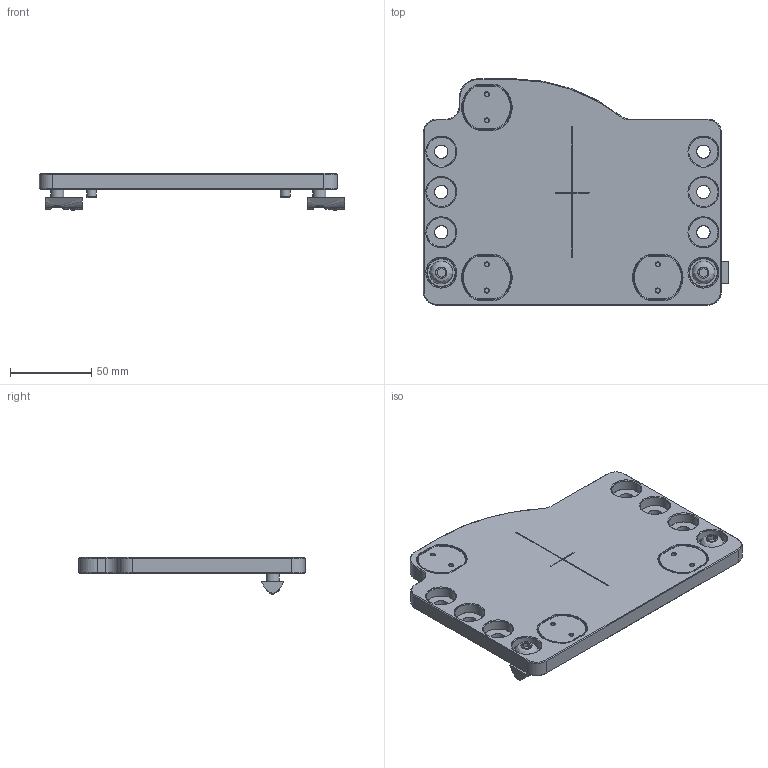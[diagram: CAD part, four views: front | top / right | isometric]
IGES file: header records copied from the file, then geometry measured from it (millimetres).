
Global section: file name: Y:\_LCPD Drawings\13.1 Lightweight Models\9936\LA-9936-0631 LAUNCH EXTRUSION MOUNT\LA-9936-0631 LAUNCH EXTRUSION MOUNT.igs; native system: NX V1926; preprocessor: SIEMENS PLM Software NX 1942; date: 20210318.153425; units: millimetre
Bounding box: 187.5 x 139 x 22.83 mm (x, y, z)
Surface area: 65033.8 mm2 (no closed solid volume)
Topology: 0 solids, 0 shells, 645 faces, 4310 edges, 4138 vertices
Faces by surface type: bspline 645
